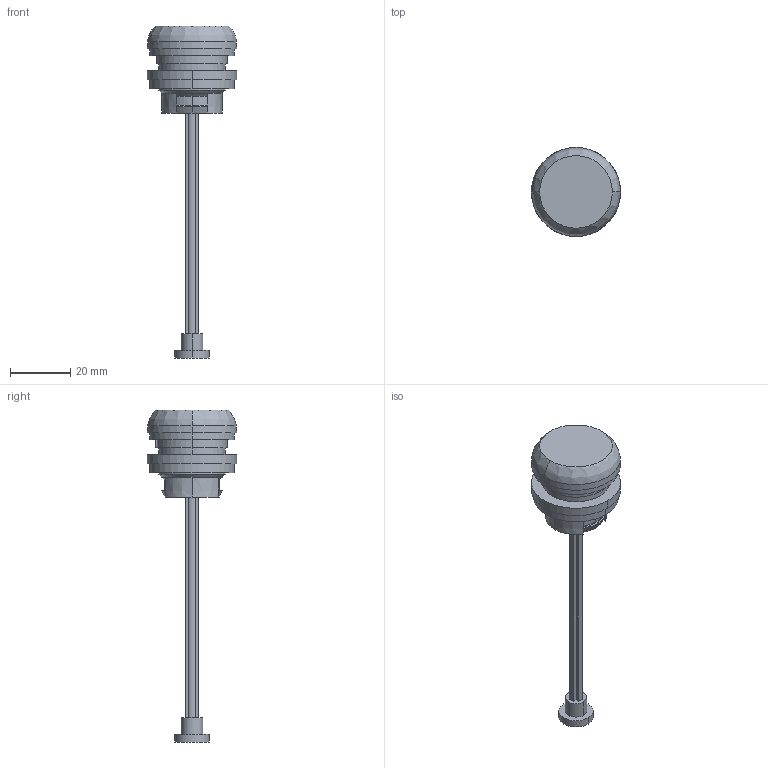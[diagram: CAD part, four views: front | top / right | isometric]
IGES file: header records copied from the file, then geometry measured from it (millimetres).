
Start section: Data from XPlus IGES,  Spatial Corp. Copyright (c) 1999-2004
Global section: file name: 271640.igs; native system:  By Spatial Corp.; preprocessor: XPlus ACIS/IGES 3.0; author: Noname; organization: Noname; date: 20120530.175820; units: millimetre
Bounding box: 29.5 x 29.5 x 109.8 mm (x, y, z)
Surface area: 5711.3 mm2 (no closed solid volume)
Topology: 0 solids, 0 shells, 80 faces, 392 edges, 392 vertices
Faces by surface type: revolution 45, extrusion 35
